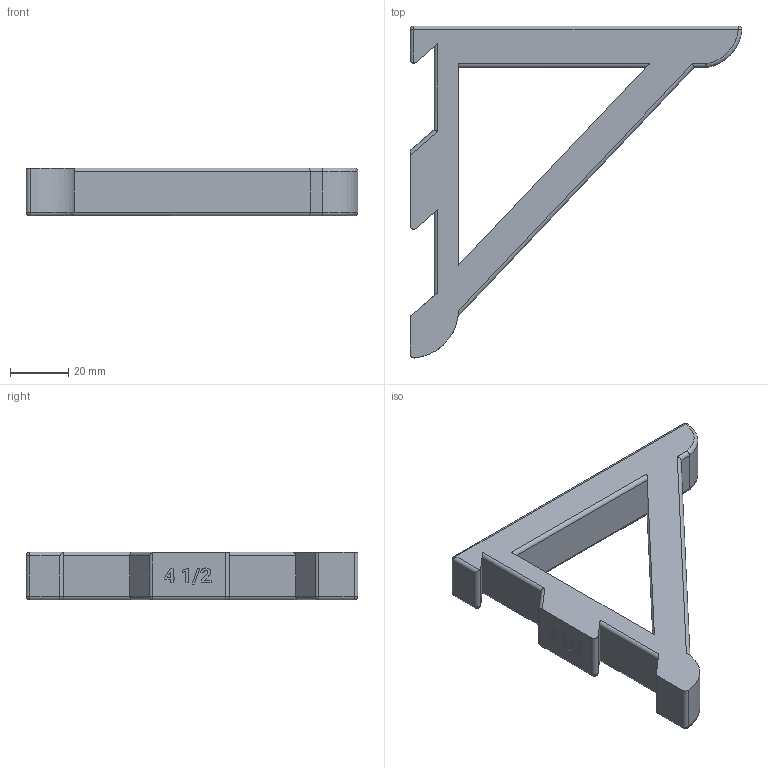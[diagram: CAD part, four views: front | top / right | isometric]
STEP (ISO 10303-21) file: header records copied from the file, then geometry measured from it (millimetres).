
FILE_DESCRIPTION(/* description */ ('STEP AP242','CAx-IF Rec.Pracs.---Representation and Presentation of Product Manufacturing Information (PMI)---4.0---2014-10-13','CAx-IF Rec.Pracs.---3D Tessellated Geometry---0.4---2014-09-14','2;1'),/* implementation_level */ '2;1');
FILE_NAME(/* name */ '677d94f3ff4da4659b3b0cd5',/* time_stamp */ '2025-01-07T20:56:20Z',/* author */ (''),/* organization */ (''),/* preprocessor_version */ 'ST-DEVELOPER v20',/* originating_system */ 'ONSHAPE BY PTC INC, 1.191',/* authorisation */ ' ');
FILE_SCHEMA (('AP242_MANAGED_MODEL_BASED_3D_ENGINEERING_MIM_LF { 1 0 10303 442 1 1 4 }'));
Length unit declared in the file: metre
Products named in the file (1): Shelf Bracket-4.5
Bounding box: 114.24 x 114.24 x 16.51 mm (x, y, z)
Volume: 65326 mm3; surface area: 18286.3 mm2
Topology: 1 solids, 1 shells, 112 faces, 284 edges, 170 vertices
Faces by surface type: plane 55, cylinder 34, bspline 11, sphere 9, torus 3
Entity records: 3318 total; most frequent: CARTESIAN_POINT 696, ORIENTED_EDGE 550, DIRECTION 513, EDGE_CURVE 275, LINE 189, VECTOR 189, VERTEX_POINT 170, AXIS2_PLACEMENT_3D 162
